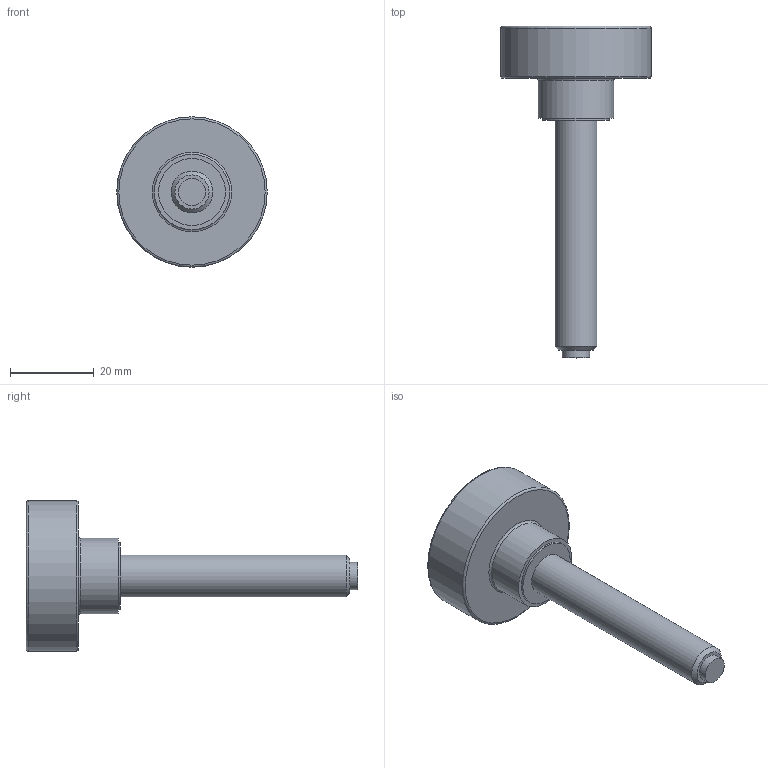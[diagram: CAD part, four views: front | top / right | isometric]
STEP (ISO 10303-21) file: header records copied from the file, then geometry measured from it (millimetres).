
FILE_DESCRIPTION( ( 'STEP AP203' ), '1' );
FILE_NAME( 'C:/Temp/Ganter_Step_05_03_2020/data/2_2/gn_421_10/Hollow knurled knob, with tip GN 421.10-M10-55-KU.stp', '2020-03-05T12:25:38', ( 'License CC BY-ND 4.0' ), ( 'CADENAS' ), ' ', 'PARTsolutions', ' ' );
FILE_SCHEMA( ( 'CONFIG_CONTROL_DESIGN' ) );
Length unit declared in the file: millimetre
Products named in the file (1): _Hollow knurled knob, with tip GN 421.10-M10-55-KU
Bounding box: 36 x 79.4 x 36 mm (x, y, z)
Volume: 13633.9 mm3; surface area: 6602.8 mm2
Topology: 1 solids, 1 shells, 19 faces, 30 edges, 19 vertices
Faces by surface type: plane 8, cylinder 7, torus 3, cone 1
Full cylindrical faces by diameter (mm): 6.5 x1, 10 x1, 14 x1, 16 x1, 18 x1, 31 x1, 36 x1
Entity records: 418 total; most frequent: DIRECTION 76, CARTESIAN_POINT 56, AXIS2_PLACEMENT_3D 38, EDGE_LOOP 36, ORIENTED_EDGE 36, FACE_OUTER_BOUND 29, ADVANCED_FACE 19, EDGE_CURVE 18
